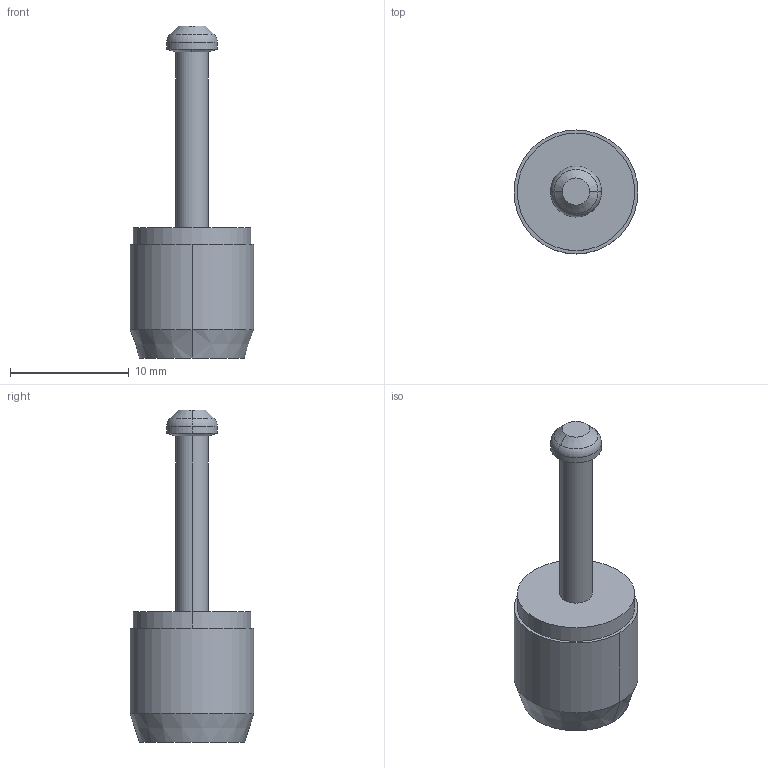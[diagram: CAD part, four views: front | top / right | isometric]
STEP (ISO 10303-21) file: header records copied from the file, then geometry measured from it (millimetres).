
FILE_DESCRIPTION (( 'STEP AP214' ), '1' );
FILE_NAME ('Frontstabilisator_D10.STEP', '2014-08-21T07:27:57', ( '' ), ( '' ), 'SwSTEP 2.0', 'SolidWorks 2013', '' );
FILE_SCHEMA (( 'AUTOMOTIVE_DESIGN' ));
Length unit declared in the file: millimetre
Products named in the file (1): Frontstabilisator_D10
Bounding box: 10.45 x 10.45 x 27.99 mm (x, y, z)
Volume: 1013.2 mm3; surface area: 665.5 mm2
Topology: 1 solids, 1 shells, 20 faces, 42 edges, 26 vertices
Faces by surface type: cylinder 8, cone 4, plane 4, torus 2, sphere 2
Entity records: 582 total; most frequent: DIRECTION 114, CARTESIAN_POINT 89, ORIENTED_EDGE 84, AXIS2_PLACEMENT_3D 51, EDGE_CURVE 42, CIRCLE 30, VERTEX_POINT 26, EDGE_LOOP 22
